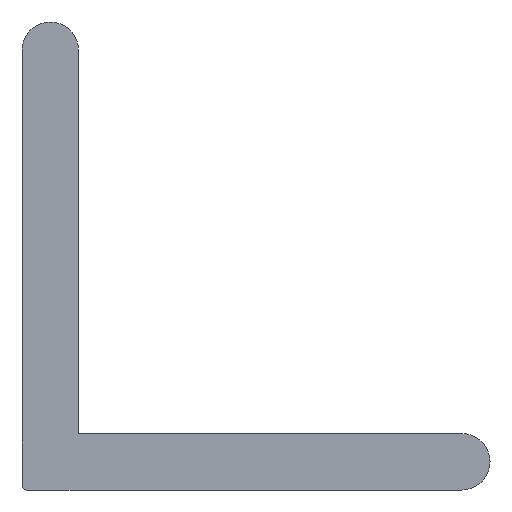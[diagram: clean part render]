
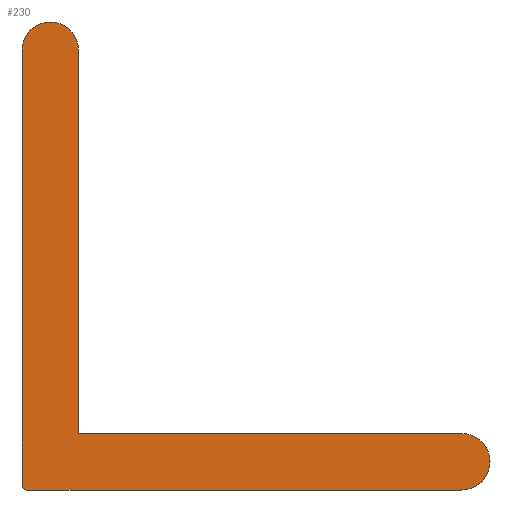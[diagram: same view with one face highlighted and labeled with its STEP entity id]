
A CAD part, front view. The second image highlights one B-rep face of the part: STEP entity #230.
In plain terms, the highlighted planar face has unit normal (0, -1, 0).
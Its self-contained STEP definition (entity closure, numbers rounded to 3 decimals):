
#26=CIRCLE('',#248,0.2);
#27=CIRCLE('',#249,1.15);
#28=CIRCLE('',#250,1.15);
#52=ORIENTED_EDGE('',*,*,#81,.F.);
#53=ORIENTED_EDGE('',*,*,#89,.T.);
#54=ORIENTED_EDGE('',*,*,#75,.F.);
#55=ORIENTED_EDGE('',*,*,#90,.T.);
#56=ORIENTED_EDGE('',*,*,#71,.F.);
#57=ORIENTED_EDGE('',*,*,#85,.F.);
#58=ORIENTED_EDGE('',*,*,#91,.T.);
#71=EDGE_CURVE('',#92,#93,#106,.T.);
#75=EDGE_CURVE('',#96,#97,#110,.T.);
#81=EDGE_CURVE('',#102,#103,#116,.T.);
#85=EDGE_CURVE('',#105,#92,#120,.T.);
#89=EDGE_CURVE('',#102,#97,#26,.F.);
#90=EDGE_CURVE('',#96,#93,#27,.F.);
#91=EDGE_CURVE('',#105,#103,#28,.F.);
#92=VERTEX_POINT('',#304);
#93=VERTEX_POINT('',#305);
#96=VERTEX_POINT('',#313);
#97=VERTEX_POINT('',#314);
#102=VERTEX_POINT('',#325);
#103=VERTEX_POINT('',#327);
#105=VERTEX_POINT('',#333);
#106=LINE('',#303,#121);
#110=LINE('',#312,#125);
#116=LINE('',#326,#131);
#120=LINE('',#334,#135);
#121=VECTOR('',#258,1000.);
#125=VECTOR('',#264,1000.);
#131=VECTOR('',#272,1000.);
#135=VECTOR('',#278,1000.);
#141=EDGE_LOOP('',(#52,#53,#54,#55,#56,#57,#58));
#150=FACE_BOUND('',#141,.T.);
#159=PLANE('',#247);
#230=ADVANCED_FACE('',(#150),#159,.F.);
#247=AXIS2_PLACEMENT_3D('',#339,#287,#288);
#248=AXIS2_PLACEMENT_3D('',#340,#289,#290);
#249=AXIS2_PLACEMENT_3D('',#341,#291,#292);
#250=AXIS2_PLACEMENT_3D('',#342,#293,#294);
#258=DIRECTION('',(1.,0.,0.));
#264=DIRECTION('',(-1.,0.,0.));
#272=DIRECTION('',(0.,0.,1.));
#278=DIRECTION('',(0.,0.,-1.));
#287=DIRECTION('',(0.,1.,0.));
#288=DIRECTION('',(0.,0.,1.));
#289=DIRECTION('',(0.,1.,0.));
#290=DIRECTION('',(0.,0.,1.));
#291=DIRECTION('',(0.,1.,0.));
#292=DIRECTION('',(0.,0.,1.));
#293=DIRECTION('',(0.,1.,0.));
#294=DIRECTION('',(0.,0.,1.));
#303=CARTESIAN_POINT('',(2.3,0.,2.3));
#304=CARTESIAN_POINT('',(2.3,0.,2.3));
#305=CARTESIAN_POINT('',(17.85,0.,2.3));
#312=CARTESIAN_POINT('',(19.,0.,0.));
#313=CARTESIAN_POINT('',(17.85,0.,0.));
#314=CARTESIAN_POINT('',(0.2,0.,0.));
#325=CARTESIAN_POINT('',(0.,0.,0.2));
#326=CARTESIAN_POINT('',(0.,0.,0.));
#327=CARTESIAN_POINT('',(0.,0.,17.85));
#333=CARTESIAN_POINT('',(2.3,0.,17.85));
#334=CARTESIAN_POINT('',(2.3,0.,19.));
#339=CARTESIAN_POINT('',(0.,0.,0.));
#340=CARTESIAN_POINT('',(0.2,0.,0.2));
#341=CARTESIAN_POINT('',(17.85,0.,1.15));
#342=CARTESIAN_POINT('',(1.15,0.,17.85));
